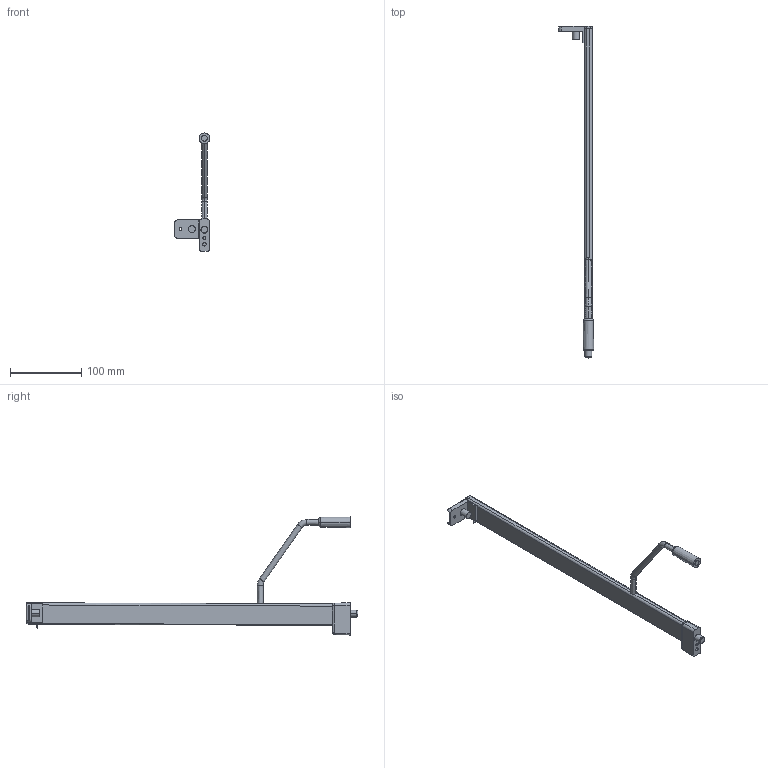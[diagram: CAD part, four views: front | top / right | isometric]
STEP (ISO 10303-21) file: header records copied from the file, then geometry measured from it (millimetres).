
FILE_DESCRIPTION (( 'STEP AP214' ), '1' );
FILE_NAME ('_2S_REL_7606_NL450_RE_Frontstütze.step', '2010-07-01T14:41:55', ( 'grass' ), ( '' ), 'SwSTEP 2.0', 'SolidWorks 2009', '' );
FILE_SCHEMA (( 'AUTOMOTIVE_DESIGN' ));
Length unit declared in the file: millimetre
Products named in the file (1): _2S_REL_7606_NL450_RE_Frontstütze
Bounding box: 49.75 x 465.5 x 165.5 mm (x, y, z)
Volume: 168914.2 mm3; surface area: 47521.9 mm2
Topology: 2 solids, 2 shells, 143 faces, 340 edges, 205 vertices
Faces by surface type: cylinder 61, plane 46, bspline 16, torus 12, cone 6, sphere 2
Entity records: 5406 total; most frequent: CARTESIAN_POINT 2209, ORIENTED_EDGE 676, DIRECTION 652, EDGE_CURVE 338, AXIS2_PLACEMENT_3D 249, VERTEX_POINT 205, LINE 154, VECTOR 154
